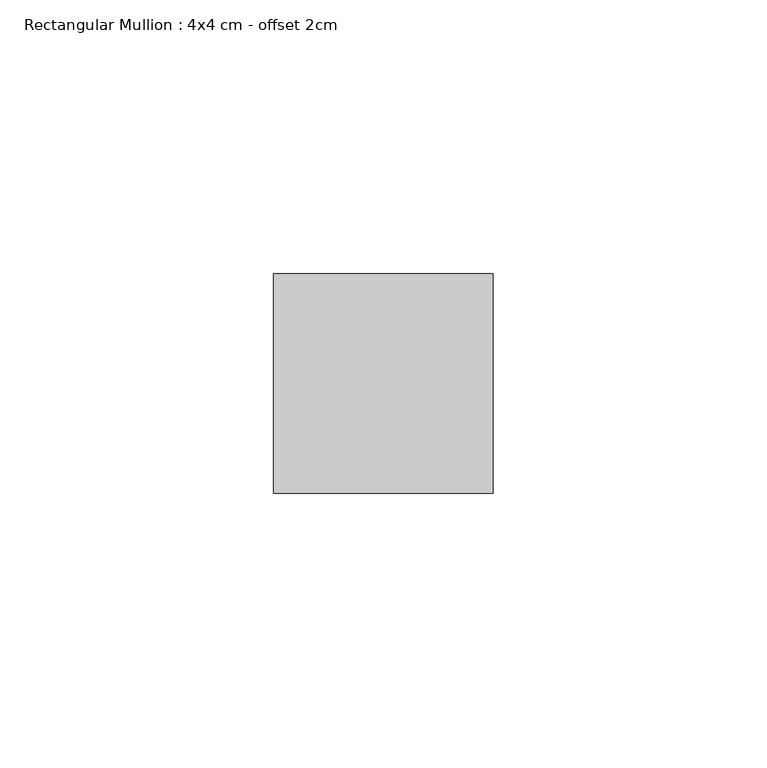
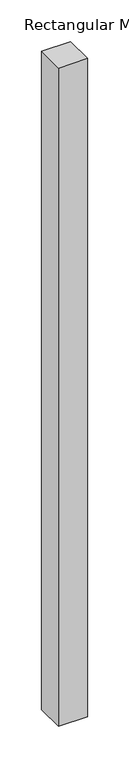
"""IFC4 building model written with IfcOpenShell, lengths in millimetres: member geometry, Rectangular Mullion : 4x4 cm - offset 2cm."""

from ifc_helpers import new_model, si_unit, frame, origin, place, context, project, spatial, polyline, outline, extrude, source, transform, mapped, element, save


def rectangular_mullion_4x4_cm_offset_2cm_3eb18034(model_context):
    return source(origin(), model_context, "Body", "SweptSolid", [
        extrude(outline(polyline([(40.0, 40.0), (40.0, 0.0), (0.0, 0.0), (0.0, 40.0), (40.0, 40.0)])), frame((0.0, 0.0, -960.0000003), z_axis=(0.0, 0.0, 1.0), x_axis=(1.0, 0.0, 0.0)), (0.0, 0.0, 1.0), 960.0000003),
    ])


if __name__ == "__main__":
    model = new_model("IFC4")
    model_context = context("Model", 3, world=origin())
    ifc_project = project(units=[si_unit("LENGTHUNIT", "METRE", prefix="MILLI")], contexts=[model_context])
    site = spatial("IfcSite", under=ifc_project)
    building = spatial("IfcBuilding", under=site)
    placement = place(None, origin())
    rectangular_mullion_4x4_cm_offset_2cm_shape = rectangular_mullion_4x4_cm_offset_2cm_3eb18034(model_context)
    element("IfcMember", 1, ObjectType="Rectangular Mullion : 4x4 cm - offset 2cm", at=placement, inside=building, context=model_context, shape_type="MappedRepresentation", body=[
        mapped(rectangular_mullion_4x4_cm_offset_2cm_shape, transform((0.0, 0.0, 0.0), x_axis=(1.0, 0.0, 0.0), y_axis=(0.0, 1.0, 0.0), z_axis=(0.0, 0.0, 1.0))),
    ])
    save(model, "model.ifc")
